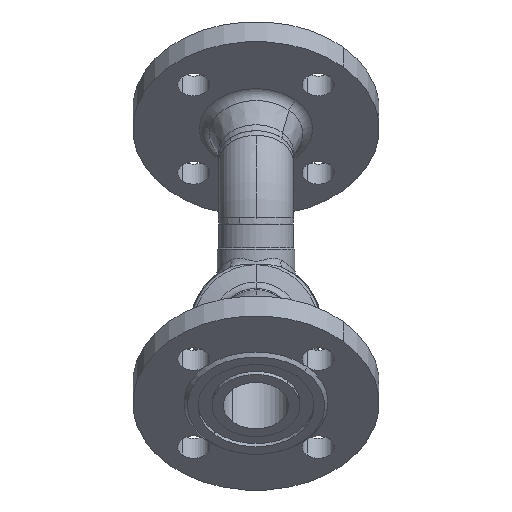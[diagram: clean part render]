
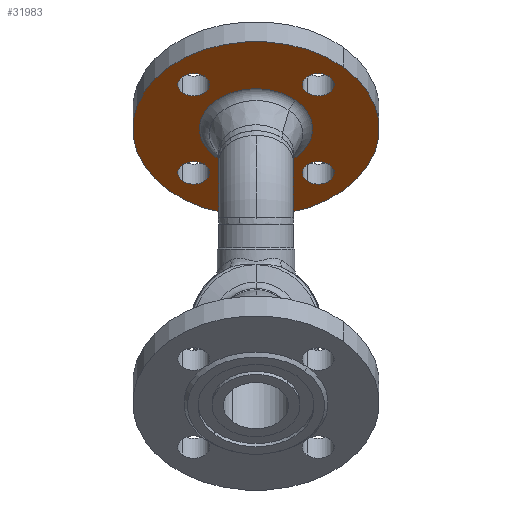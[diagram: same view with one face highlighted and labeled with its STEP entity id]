
A CAD part, front view. The second image highlights one B-rep face of the part: STEP entity #31983.
In plain terms, the highlighted planar face has unit normal (0, -0.707, -0.707) as drawn and (0, 1, 0) by its records, which use the part's own axes.
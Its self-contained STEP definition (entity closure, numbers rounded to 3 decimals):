
#49204 = CARTESIAN_POINT ( 'NONE',  ( 41., 18., 0. ) ) ;
#33039 = EDGE_CURVE ( 'NONE', #1961, #38965, #18455, .T. ) ;
#33091 = CARTESIAN_POINT ( 'NONE',  ( -9., 18., 50. ) ) ;
#506 = CIRCLE ( 'NONE', #507, 32.147 ) ;
#507 = AXIS2_PLACEMENT_3D ( 'NONE', #508, #509, #510 ) ;
#508 = CARTESIAN_POINT ( 'NONE',  ( 0., 18., 0. ) ) ;
#509 = DIRECTION ( 'NONE',  ( 0., 1., 0. ) ) ;
#510 = DIRECTION ( 'NONE',  ( -1., 0., 0. ) ) ;
#17168 = CIRCLE ( 'NONE', #17169, 9. ) ;
#17169 = AXIS2_PLACEMENT_3D ( 'NONE', #17170, #17171, #17172 ) ;
#17170 = CARTESIAN_POINT ( 'NONE',  ( 50., 18., 0. ) ) ;
#17171 = DIRECTION ( 'NONE',  ( 0., 1., 0. ) ) ;
#17172 = DIRECTION ( 'NONE',  ( -1., 0., 0. ) ) ;
#50096 = EDGE_LOOP ( 'NONE', ( #48238, #45045 ) ) ;
#1000 = VERTEX_POINT ( 'NONE', #43599 ) ;
#1052 = EDGE_LOOP ( 'NONE', ( #53870, #50962 ) ) ;
#33907 = CIRCLE ( 'NONE', #33908, 9. ) ;
#33908 = AXIS2_PLACEMENT_3D ( 'NONE', #33909, #33946, #33947 ) ;
#33909 = CARTESIAN_POINT ( 'NONE',  ( 0., 18., 50. ) ) ;
#33946 = DIRECTION ( 'NONE',  ( 0., 1., 0. ) ) ;
#33947 = DIRECTION ( 'NONE',  ( 0., 0., -1. ) ) ;
#1208 = CIRCLE ( 'NONE', #1209, 9. ) ;
#1209 = AXIS2_PLACEMENT_3D ( 'NONE', #1210, #1211, #1212 ) ;
#1210 = CARTESIAN_POINT ( 'NONE',  ( 0., 18., -50. ) ) ;
#1211 = DIRECTION ( 'NONE',  ( 0., 1., 0. ) ) ;
#1212 = DIRECTION ( 'NONE',  ( 0., 0., 1. ) ) ;
#1217 = CIRCLE ( 'NONE', #1218, 9. ) ;
#1218 = AXIS2_PLACEMENT_3D ( 'NONE', #1254, #1255, #1256 ) ;
#1254 = CARTESIAN_POINT ( 'NONE',  ( -50., 18., 0. ) ) ;
#1255 = DIRECTION ( 'NONE',  ( 0., 1., 0. ) ) ;
#1256 = DIRECTION ( 'NONE',  ( 1., 0., 0. ) ) ;
#17942 = CIRCLE ( 'NONE', #17943, 9. ) ;
#17943 = AXIS2_PLACEMENT_3D ( 'NONE', #17944, #17945, #17979 ) ;
#17944 = CARTESIAN_POINT ( 'NONE',  ( 50., 18., 0. ) ) ;
#17945 = DIRECTION ( 'NONE',  ( 0., 1., 0. ) ) ;
#17979 = DIRECTION ( 'NONE',  ( -1., 0., 0. ) ) ;
#17986 = CARTESIAN_POINT ( 'NONE',  ( -41., 18., 0. ) ) ;
#50820 = CARTESIAN_POINT ( 'NONE',  ( -9., 18., -50. ) ) ;
#1711 = ORIENTED_EDGE ( 'NONE', *, *, #52156, .F. ) ;
#50962 = ORIENTED_EDGE ( 'NONE', *, *, #29020, .F. ) ;
#1961 = VERTEX_POINT ( 'NONE', #54186 ) ;
#18347 = VERTEX_POINT ( 'NONE', #48080 ) ;
#18455 = CIRCLE ( 'NONE', #18456, 32.147 ) ;
#18456 = AXIS2_PLACEMENT_3D ( 'NONE', #18457, #18458, #18459 ) ;
#18457 = CARTESIAN_POINT ( 'NONE',  ( 0., 18., 0. ) ) ;
#18458 = DIRECTION ( 'NONE',  ( 0., 1., 0. ) ) ;
#18459 = DIRECTION ( 'NONE',  ( -1., 0., 0. ) ) ;
#51364 = VERTEX_POINT ( 'NONE', #50820 ) ;
#18702 = VERTEX_POINT ( 'NONE', #49204 ) ;
#2554 = EDGE_CURVE ( 'NONE', #38965, #1961, #506, .T. ) ;
#19305 = EDGE_CURVE ( 'NONE', #21724, #18702, #17942, .T. ) ;
#19356 = VERTEX_POINT ( 'NONE', #17986 ) ;
#52156 = EDGE_CURVE ( 'NONE', #1000, #51364, #11489, .T. ) ;
#3108 = EDGE_CURVE ( 'NONE', #51364, #1000, #1208, .T. ) ;
#3379 = CIRCLE ( 'NONE', #3380, 70. ) ;
#3380 = AXIS2_PLACEMENT_3D ( 'NONE', #3381, #3382, #3418 ) ;
#3381 = CARTESIAN_POINT ( 'NONE',  ( 0., 18., 0. ) ) ;
#3382 = DIRECTION ( 'NONE',  ( 0., 1., 0. ) ) ;
#3418 = DIRECTION ( 'NONE',  ( -1., 0., 0. ) ) ;
#52826 = EDGE_CURVE ( 'NONE', #44188, #19356, #12199, .T. ) ;
#4290 = FACE_BOUND ( 'NONE', #31337, .T. ) ;
#4291 = FACE_BOUND ( 'NONE', #1052, .T. ) ;
#4327 = FACE_BOUND ( 'NONE', #50096, .T. ) ;
#4328 = FACE_BOUND ( 'NONE', #44189, .T. ) ;
#4329 = FACE_BOUND ( 'NONE', #13276, .T. ) ;
#4330 = FACE_OUTER_BOUND ( 'NONE', #9354, .T. ) ;
#4331 = PLANE ( 'NONE',  #4332 ) ;
#4332 = AXIS2_PLACEMENT_3D ( 'NONE', #4333, #4334, #4335 ) ;
#4333 = CARTESIAN_POINT ( 'NONE',  ( 70., 18., 0. ) ) ;
#4334 = DIRECTION ( 'NONE',  ( 0., -1., 0. ) ) ;
#4335 = DIRECTION ( 'NONE',  ( 1., 0., 0. ) ) ;
#53870 = ORIENTED_EDGE ( 'NONE', *, *, #52826, .F. ) ;
#37661 = EDGE_CURVE ( 'NONE', #18347, #25395, #12889, .T. ) ;
#54186 = CARTESIAN_POINT ( 'NONE',  ( -32.147, 18., 0. ) ) ;
#21724 = VERTEX_POINT ( 'NONE', #47891 ) ;
#5532 = EDGE_CURVE ( 'NONE', #25395, #18347, #3379, .T. ) ;
#38965 = VERTEX_POINT ( 'NONE', #15609 ) ;
#6538 = ORIENTED_EDGE ( 'NONE', *, *, #5532, .T. ) ;
#7949 = ORIENTED_EDGE ( 'NONE', *, *, #37661, .T. ) ;
#8600 = VERTEX_POINT ( 'NONE', #33091 ) ;
#25395 = VERTEX_POINT ( 'NONE', #14861 ) ;
#9101 = EDGE_CURVE ( 'NONE', #15638, #8600, #33907, .T. ) ;
#9354 = EDGE_LOOP ( 'NONE', ( #7949, #6538 ) ) ;
#42330 = ORIENTED_EDGE ( 'NONE', *, *, #15335, .F. ) ;
#10007 = ORIENTED_EDGE ( 'NONE', *, *, #2554, .F. ) ;
#43599 = CARTESIAN_POINT ( 'NONE',  ( 9., 18., -50. ) ) ;
#44188 = VERTEX_POINT ( 'NONE', #47346 ) ;
#44189 = EDGE_LOOP ( 'NONE', ( #42330, #13931 ) ) ;
#11489 = CIRCLE ( 'NONE', #11490, 9. ) ;
#11490 = AXIS2_PLACEMENT_3D ( 'NONE', #11491, #11492, #11493 ) ;
#11491 = CARTESIAN_POINT ( 'NONE',  ( 0., 18., -50. ) ) ;
#11492 = DIRECTION ( 'NONE',  ( 0., 1., 0. ) ) ;
#11493 = DIRECTION ( 'NONE',  ( 0., 0., 1. ) ) ;
#11863 = ORIENTED_EDGE ( 'NONE', *, *, #33039, .F. ) ;
#12199 = CIRCLE ( 'NONE', #12200, 9. ) ;
#12200 = AXIS2_PLACEMENT_3D ( 'NONE', #12201, #12202, #12203 ) ;
#12201 = CARTESIAN_POINT ( 'NONE',  ( -50., 18., 0. ) ) ;
#12202 = DIRECTION ( 'NONE',  ( 0., 1., 0. ) ) ;
#12203 = DIRECTION ( 'NONE',  ( 1., 0., 0. ) ) ;
#45045 = ORIENTED_EDGE ( 'NONE', *, *, #9101, .F. ) ;
#29020 = EDGE_CURVE ( 'NONE', #19356, #44188, #1217, .T. ) ;
#12889 = CIRCLE ( 'NONE', #12890, 70. ) ;
#12890 = AXIS2_PLACEMENT_3D ( 'NONE', #12891, #12892, #12893 ) ;
#12891 = CARTESIAN_POINT ( 'NONE',  ( 0., 18., 0. ) ) ;
#12892 = DIRECTION ( 'NONE',  ( 0., 1., 0. ) ) ;
#12893 = DIRECTION ( 'NONE',  ( -1., 0., 0. ) ) ;
#13276 = EDGE_LOOP ( 'NONE', ( #11863, #10007 ) ) ;
#29928 = ORIENTED_EDGE ( 'NONE', *, *, #3108, .F. ) ;
#13931 = ORIENTED_EDGE ( 'NONE', *, *, #19305, .F. ) ;
#30455 = CARTESIAN_POINT ( 'NONE',  ( 9., 18., 50. ) ) ;
#46910 = EDGE_CURVE ( 'NONE', #8600, #15638, #32223, .T. ) ;
#47346 = CARTESIAN_POINT ( 'NONE',  ( -59., 18., 0. ) ) ;
#14861 = CARTESIAN_POINT ( 'NONE',  ( 70., 18., 0. ) ) ;
#31337 = EDGE_LOOP ( 'NONE', ( #29928, #1711 ) ) ;
#47891 = CARTESIAN_POINT ( 'NONE',  ( 59., 18., 0. ) ) ;
#48080 = CARTESIAN_POINT ( 'NONE',  ( -70., 18., 0. ) ) ;
#15335 = EDGE_CURVE ( 'NONE', #18702, #21724, #17168, .T. ) ;
#48238 = ORIENTED_EDGE ( 'NONE', *, *, #46910, .F. ) ;
#31983 = ADVANCED_FACE ( 'NONE', ( #4290, #4291, #4327, #4328, #4329, #4330 ), #4331, .F. ) ;
#15609 = CARTESIAN_POINT ( 'NONE',  ( 32.147, 18., 0. ) ) ;
#15638 = VERTEX_POINT ( 'NONE', #30455 ) ;
#32223 = CIRCLE ( 'NONE', #32224, 9. ) ;
#32224 = AXIS2_PLACEMENT_3D ( 'NONE', #32225, #32226, #32227 ) ;
#32225 = CARTESIAN_POINT ( 'NONE',  ( 0., 18., 50. ) ) ;
#32226 = DIRECTION ( 'NONE',  ( 0., 1., 0. ) ) ;
#32227 = DIRECTION ( 'NONE',  ( 0., 0., -1. ) ) ;
